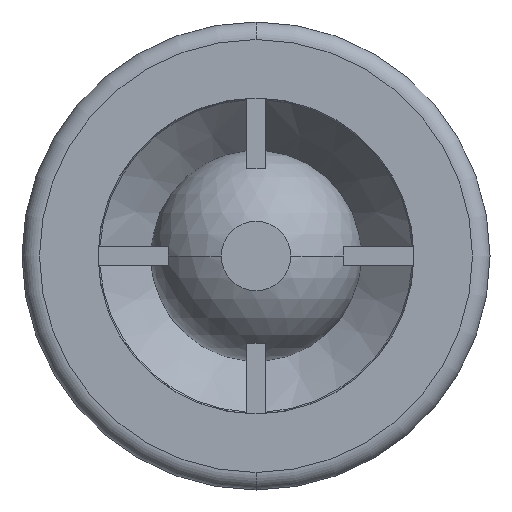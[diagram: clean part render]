
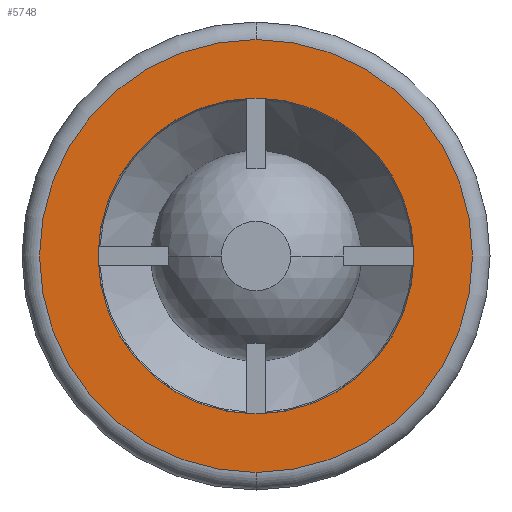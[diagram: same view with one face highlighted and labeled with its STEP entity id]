
A CAD part, front view. The second image highlights one B-rep face of the part: STEP entity #5748.
In plain terms, the highlighted planar face has unit normal (0, -1, 0).
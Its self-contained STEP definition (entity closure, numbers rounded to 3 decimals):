
#3238 = DIRECTION ( 'NONE',  ( 0., 0., -1. ) ) ;
#3239 = DIRECTION ( 'NONE',  ( 0., -1., 0. ) ) ;
#3240 = CARTESIAN_POINT ( 'NONE',  ( 0., 0., 0. ) ) ;
#3241 = AXIS2_PLACEMENT_3D ( 'NONE', #3240, #3239, #3238 ) ;
#3242 = CIRCLE ( 'NONE', #3241, 13.5 ) ;
#3445 = CARTESIAN_POINT ( 'NONE',  ( 0., 0., 18.5 ) ) ;
#3446 = CARTESIAN_POINT ( 'NONE',  ( 0., 0., -18.5 ) ) ;
#3497 = DIRECTION ( 'NONE',  ( 0., 0., 1. ) ) ;
#3498 = DIRECTION ( 'NONE',  ( 0., -1., 0. ) ) ;
#3499 = CARTESIAN_POINT ( 'NONE',  ( 0., 0., 0. ) ) ;
#3500 = AXIS2_PLACEMENT_3D ( 'NONE', #3499, #3498, #3497 ) ;
#3501 = CIRCLE ( 'NONE', #3500, 18.5 ) ;
#3598 = DIRECTION ( 'NONE',  ( 0., 0., 1. ) ) ;
#3599 = DIRECTION ( 'NONE',  ( 0., 1., 0. ) ) ;
#3600 = CARTESIAN_POINT ( 'NONE',  ( -13.5, 0., 0. ) ) ;
#3602 = AXIS2_PLACEMENT_3D ( 'NONE', #3600, #3599, #3598 ) ;
#3603 = PLANE ( 'NONE',  #3602 ) ;
#3604 = FACE_BOUND ( 'NONE', #5738, .T. ) ;
#3608 = FACE_OUTER_BOUND ( 'NONE', #5741, .T. ) ;
#3617 = DIRECTION ( 'NONE',  ( 0., 0., 1. ) ) ;
#3618 = DIRECTION ( 'NONE',  ( 0., -1., 0. ) ) ;
#3619 = CARTESIAN_POINT ( 'NONE',  ( 0., 0., 0. ) ) ;
#3620 = AXIS2_PLACEMENT_3D ( 'NONE', #3619, #3618, #3617 ) ;
#3621 = CIRCLE ( 'NONE', #3620, 18.5 ) ;
#3895 = CARTESIAN_POINT ( 'NONE',  ( 0., 0., -13.5 ) ) ;
#3910 = CARTESIAN_POINT ( 'NONE',  ( 0., 0., 0. ) ) ;
#3911 = CIRCLE ( 'NONE', #3971, 13.5 ) ;
#3912 = CARTESIAN_POINT ( 'NONE',  ( 0., 0., 13.5 ) ) ;
#3969 = DIRECTION ( 'NONE',  ( 0., 0., -1. ) ) ;
#3970 = DIRECTION ( 'NONE',  ( 0., -1., 0. ) ) ;
#3971 = AXIS2_PLACEMENT_3D ( 'NONE', #3910, #3970, #3969 ) ;
#5547 = EDGE_CURVE ( 'NONE', #5930, #5953, #3242, .T. ) ;
#5675 = VERTEX_POINT ( 'NONE', #3446 ) ;
#5676 = VERTEX_POINT ( 'NONE', #3445 ) ;
#5681 = EDGE_CURVE ( 'NONE', #5675, #5676, #3501, .T. ) ;
#5738 = EDGE_LOOP ( 'NONE', ( #5780, #5778 ) ) ;
#5741 = EDGE_LOOP ( 'NONE', ( #5743, #5779 ) ) ;
#5742 = EDGE_CURVE ( 'NONE', #5676, #5675, #3621, .T. ) ;
#5743 = ORIENTED_EDGE ( 'NONE', *, *, #5742, .T. ) ;
#5748 = ADVANCED_FACE ( 'NONE', ( #3608, #3604 ), #3603, .F. ) ;
#5778 = ORIENTED_EDGE ( 'NONE', *, *, #5957, .F. ) ;
#5779 = ORIENTED_EDGE ( 'NONE', *, *, #5681, .T. ) ;
#5780 = ORIENTED_EDGE ( 'NONE', *, *, #5547, .F. ) ;
#5930 = VERTEX_POINT ( 'NONE', #3895 ) ;
#5953 = VERTEX_POINT ( 'NONE', #3912 ) ;
#5957 = EDGE_CURVE ( 'NONE', #5953, #5930, #3911, .T. ) ;
